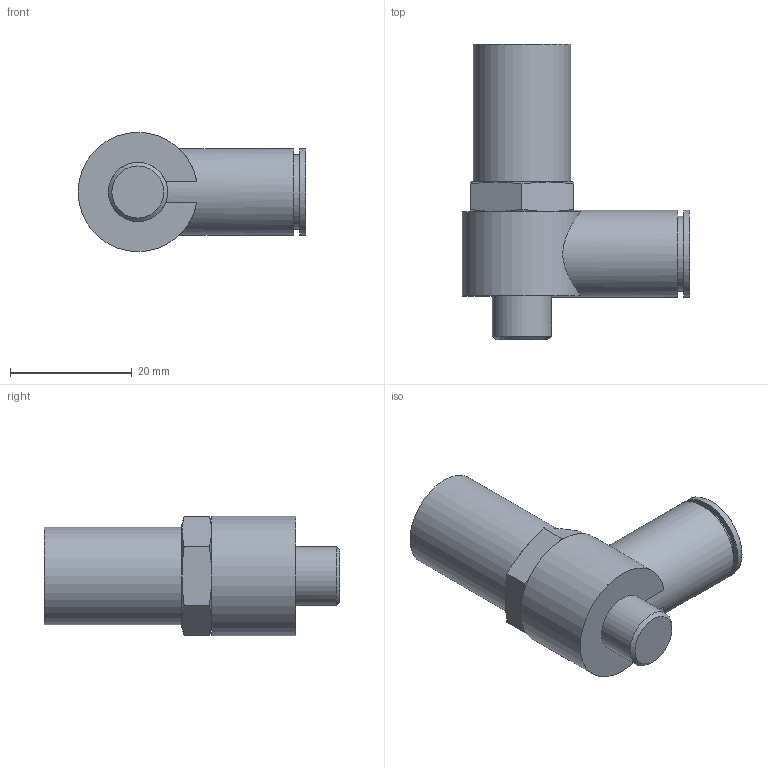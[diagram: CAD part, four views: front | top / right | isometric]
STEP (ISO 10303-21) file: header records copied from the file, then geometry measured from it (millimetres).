
FILE_DESCRIPTION(('STEP AP203'),'1');
FILE_NAME('BCVD-10-801.stp','2025-07-18T01:12:39',(' '),(' '),'Spatial InterOp 3D',' ',' ');
FILE_SCHEMA(('CONFIG_CONTROL_DESIGN'));
Length unit declared in the file: millimetre
Products named in the file (1): 1
Bounding box: 37.41 x 48.6 x 19.63 mm (x, y, z)
Volume: 12484.4 mm3; surface area: 4530.9 mm2
Topology: 1 solids, 1 shells, 35 faces, 76 edges, 47 vertices
Faces by surface type: plane 15, cone 13, cylinder 7
Full cylindrical faces by diameter (mm): 8 x1, 9.728 x1, 12.3 x1, 14.3 x2, 16 x1
Entity records: 1030 total; most frequent: CARTESIAN_POINT 303, DIRECTION 136, ORIENTED_EDGE 132, EDGE_CURVE 66, AXIS2_PLACEMENT_3D 63, EDGE_LOOP 46, VERTEX_POINT 44, FACE_OUTER_BOUND 41
